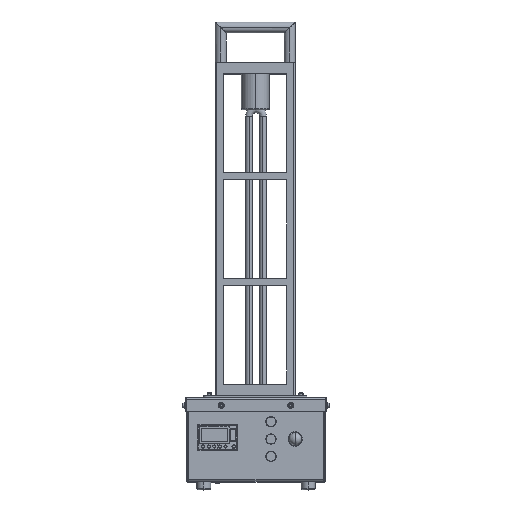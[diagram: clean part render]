
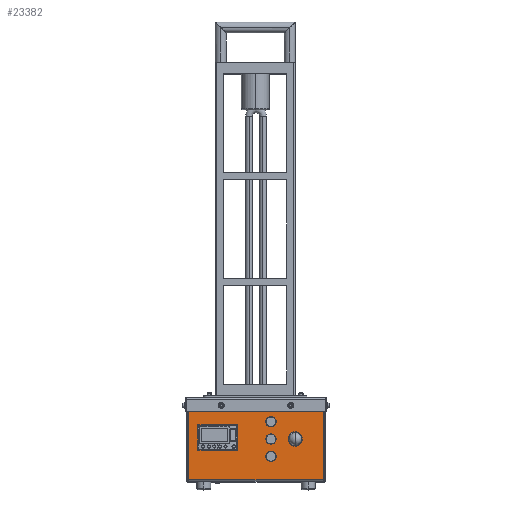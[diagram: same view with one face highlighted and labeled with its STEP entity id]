
A CAD part, top view. The second image highlights one B-rep face of the part: STEP entity #23382.
In plain terms, the highlighted planar face has unit normal (0, 0, 1) as drawn and (0, 0, -1) by its records, which use the part's own axes.
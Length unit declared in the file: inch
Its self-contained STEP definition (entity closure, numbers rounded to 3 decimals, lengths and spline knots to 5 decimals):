
#197 = CIRCLE ( 'NONE', #8352, 0.12575 ) ;
#521 = CARTESIAN_POINT ( 'NONE',  ( -3.59698, -0.41735, -0.0625 ) ) ;
#875 = FACE_BOUND ( 'NONE', #47286, .T. ) ;
#1163 = VECTOR ( 'NONE', #33926, 39.37008 ) ;
#1440 = EDGE_LOOP ( 'NONE', ( #26454, #1459 ) ) ;
#1459 = ORIENTED_EDGE ( 'NONE', *, *, #51368, .F. ) ;
#1711 = FACE_BOUND ( 'NONE', #41841, .T. ) ;
#1777 = LINE ( 'NONE', #22287, #11646 ) ;
#1897 = EDGE_CURVE ( 'NONE', #4113, #29497, #36313, .T. ) ;
#2154 = DIRECTION ( 'NONE',  ( 0., 0., -1. ) ) ;
#3862 = VERTEX_POINT ( 'NONE', #11771 ) ;
#3948 = ORIENTED_EDGE ( 'NONE', *, *, #17953, .F. ) ;
#4113 = VERTEX_POINT ( 'NONE', #14264 ) ;
#4131 = ORIENTED_EDGE ( 'NONE', *, *, #6251, .F. ) ;
#4324 = VERTEX_POINT ( 'NONE', #46667 ) ;
#4395 = LINE ( 'NONE', #4958, #23861 ) ;
#4863 = CARTESIAN_POINT ( 'NONE',  ( -1.60448, -0.41735, -0.0625 ) ) ;
#4958 = CARTESIAN_POINT ( 'NONE',  ( 3.39552, -1.20985, -0.0625 ) ) ;
#4995 = DIRECTION ( 'NONE',  ( -1., 0., 0. ) ) ;
#5364 = CARTESIAN_POINT ( 'NONE',  ( 3.39552, 0.60015, -0.0625 ) ) ;
#5531 = ORIENTED_EDGE ( 'NONE', *, *, #32664, .F. ) ;
#5584 = LINE ( 'NONE', #39734, #21926 ) ;
#5683 = PLANE ( 'NONE',  #17317 ) ;
#6045 = CARTESIAN_POINT ( 'NONE',  ( -3.27698, 2.01265, -0.0625 ) ) ;
#6251 = EDGE_CURVE ( 'NONE', #4324, #4113, #32190, .T. ) ;
#6548 = CARTESIAN_POINT ( 'NONE',  ( -3.08198, -0.41735, -0.0625 ) ) ;
#7469 = CARTESIAN_POINT ( 'NONE',  ( 1.59727, 2.01265, -0.0625 ) ) ;
#8229 = VERTEX_POINT ( 'NONE', #4863 ) ;
#8352 = AXIS2_PLACEMENT_3D ( 'NONE', #10114, #2154, #53849 ) ;
#8391 = VERTEX_POINT ( 'NONE', #50581 ) ;
#9655 = FACE_BOUND ( 'NONE', #1440, .T. ) ;
#9808 = VERTEX_POINT ( 'NONE', #23524 ) ;
#9814 = DIRECTION ( 'NONE',  ( 0., 0., -1. ) ) ;
#10114 = CARTESIAN_POINT ( 'NONE',  ( -3.27698, 2.01265, -0.0625 ) ) ;
#10545 = EDGE_LOOP ( 'NONE', ( #44524, #5531 ) ) ;
#10759 = DIRECTION ( 'NONE',  ( 0., 1., 0. ) ) ;
#11202 = VERTEX_POINT ( 'NONE', #7469 ) ;
#11646 = VECTOR ( 'NONE', #12747, 39.37008 ) ;
#11771 = CARTESIAN_POINT ( 'NONE',  ( 4.04302, 2.50015, -0.0625 ) ) ;
#11939 = DIRECTION ( 'NONE',  ( -1., 0., 0. ) ) ;
#12136 = VECTOR ( 'NONE', #10759, 39.37008 ) ;
#12235 = AXIS2_PLACEMENT_3D ( 'NONE', #50687, #41358, #16269 ) ;
#12747 = DIRECTION ( 'NONE',  ( -1., 0., 0. ) ) ;
#12787 = VERTEX_POINT ( 'NONE', #55370 ) ;
#12849 = CARTESIAN_POINT ( 'NONE',  ( 4.04302, -3.33485, -0.0625 ) ) ;
#13115 = AXIS2_PLACEMENT_3D ( 'NONE', #14057, #9814, #4995 ) ;
#13960 = EDGE_CURVE ( 'NONE', #45470, #8391, #25883, .T. ) ;
#14057 = CARTESIAN_POINT ( 'NONE',  ( -1.85448, -0.41735, -0.0625 ) ) ;
#14264 = CARTESIAN_POINT ( 'NONE',  ( 0.56552, 0.60015, -0.0625 ) ) ;
#14357 = ORIENTED_EDGE ( 'NONE', *, *, #44741, .F. ) ;
#14398 = DIRECTION ( 'NONE',  ( -1., 0., 0. ) ) ;
#15063 = EDGE_CURVE ( 'NONE', #21709, #45470, #1777, .T. ) ;
#15992 = DIRECTION ( 'NONE',  ( -1., 0., 0. ) ) ;
#16269 = DIRECTION ( 'NONE',  ( -1., 0., 0. ) ) ;
#16576 = CIRCLE ( 'NONE', #35487, 0.12575 ) ;
#16621 = DIRECTION ( 'NONE',  ( 0., 1., 0. ) ) ;
#16711 = CARTESIAN_POINT ( 'NONE',  ( 3.39552, 0.60015, -0.0625 ) ) ;
#17317 = AXIS2_PLACEMENT_3D ( 'NONE', #26834, #27412, #18122 ) ;
#17772 = DIRECTION ( 'NONE',  ( 0., 0., -1. ) ) ;
#17953 = EDGE_CURVE ( 'NONE', #8229, #12787, #19434, .T. ) ;
#18122 = DIRECTION ( 'NONE',  ( 1., 0., 0. ) ) ;
#18395 = FACE_BOUND ( 'NONE', #10545, .T. ) ;
#18587 = DIRECTION ( 'NONE',  ( -1., 0., 0. ) ) ;
#19434 = CIRCLE ( 'NONE', #13115, 0.25 ) ;
#19920 = EDGE_CURVE ( 'NONE', #3862, #8391, #44950, .T. ) ;
#20361 = VERTEX_POINT ( 'NONE', #28767 ) ;
#20944 = LINE ( 'NONE', #16711, #1163 ) ;
#21654 = AXIS2_PLACEMENT_3D ( 'NONE', #521, #17772, #14398 ) ;
#21709 = VERTEX_POINT ( 'NONE', #12849 ) ;
#21926 = VECTOR ( 'NONE', #30726, 39.37008 ) ;
#22181 = DIRECTION ( 'NONE',  ( -1., 0., 0. ) ) ;
#22287 = CARTESIAN_POINT ( 'NONE',  ( 4.05518, -3.33485, -0.0625 ) ) ;
#22687 = ORIENTED_EDGE ( 'NONE', *, *, #32463, .F. ) ;
#23382 = ADVANCED_FACE ( 'NONE', ( #18395, #1711, #875, #9655, #53686, #49420 ), #5683, .F. ) ;
#23524 = CARTESIAN_POINT ( 'NONE',  ( -3.40273, 2.01265, -0.0625 ) ) ;
#23719 = CIRCLE ( 'NONE', #48987, 0.12575 ) ;
#23767 = CARTESIAN_POINT ( 'NONE',  ( -5.69948, 2.50015, -0.0625 ) ) ;
#23861 = VECTOR ( 'NONE', #22181, 39.37008 ) ;
#24376 = DIRECTION ( 'NONE',  ( -1., 0., 0. ) ) ;
#24922 = EDGE_LOOP ( 'NONE', ( #36939, #47415, #34065, #54104 ) ) ;
#25883 = LINE ( 'NONE', #29578, #39330 ) ;
#25929 = CARTESIAN_POINT ( 'NONE',  ( 3.39552, -1.20985, -0.0625 ) ) ;
#26261 = EDGE_CURVE ( 'NONE', #47814, #4324, #4395, .T. ) ;
#26368 = ORIENTED_EDGE ( 'NONE', *, *, #26261, .F. ) ;
#26454 = ORIENTED_EDGE ( 'NONE', *, *, #27396, .F. ) ;
#26834 = CARTESIAN_POINT ( 'NONE',  ( 0., 0., -0.0625 ) ) ;
#27049 = DIRECTION ( 'NONE',  ( 0., 0., -1. ) ) ;
#27396 = EDGE_CURVE ( 'NONE', #47226, #51138, #47339, .T. ) ;
#27412 = DIRECTION ( 'NONE',  ( 0., 0., 1. ) ) ;
#28767 = CARTESIAN_POINT ( 'NONE',  ( -3.15123, 2.01265, -0.0625 ) ) ;
#29497 = VERTEX_POINT ( 'NONE', #5364 ) ;
#29578 = CARTESIAN_POINT ( 'NONE',  ( -5.59698, -3.34701, -0.0625 ) ) ;
#30726 = DIRECTION ( 'NONE',  ( 0., -1., 0. ) ) ;
#30819 = VERTEX_POINT ( 'NONE', #45990 ) ;
#32190 = LINE ( 'NONE', #49394, #12136 ) ;
#32463 = EDGE_CURVE ( 'NONE', #12787, #8229, #49587, .T. ) ;
#32664 = EDGE_CURVE ( 'NONE', #20361, #9808, #41485, .T. ) ;
#33926 = DIRECTION ( 'NONE',  ( 0., -1., 0. ) ) ;
#34065 = ORIENTED_EDGE ( 'NONE', *, *, #19920, .F. ) ;
#35487 = AXIS2_PLACEMENT_3D ( 'NONE', #53604, #27049, #18587 ) ;
#35744 = CARTESIAN_POINT ( 'NONE',  ( 3.39552, 0.60015, -0.0625 ) ) ;
#36313 = LINE ( 'NONE', #35744, #43161 ) ;
#36939 = ORIENTED_EDGE ( 'NONE', *, *, #15063, .T. ) ;
#37088 = DIRECTION ( 'NONE',  ( 0., 0., -1. ) ) ;
#37596 = CARTESIAN_POINT ( 'NONE',  ( 1.72302, 2.01265, -0.0625 ) ) ;
#37964 = CARTESIAN_POINT ( 'NONE',  ( -4.11198, -0.41735, -0.0625 ) ) ;
#38823 = VECTOR ( 'NONE', #49753, 39.37008 ) ;
#39043 = CARTESIAN_POINT ( 'NONE',  ( -5.59698, -3.33485, -0.0625 ) ) ;
#39330 = VECTOR ( 'NONE', #16621, 39.37008 ) ;
#39667 = AXIS2_PLACEMENT_3D ( 'NONE', #6045, #37088, #24376 ) ;
#39734 = CARTESIAN_POINT ( 'NONE',  ( 4.04302, 2.50015, -0.0625 ) ) ;
#40602 = AXIS2_PLACEMENT_3D ( 'NONE', #54659, #41094, #15992 ) ;
#41094 = DIRECTION ( 'NONE',  ( 0., 0., -1. ) ) ;
#41358 = DIRECTION ( 'NONE',  ( 0., 0., -1. ) ) ;
#41485 = CIRCLE ( 'NONE', #39667, 0.12575 ) ;
#41841 = EDGE_LOOP ( 'NONE', ( #52535, #43976 ) ) ;
#43161 = VECTOR ( 'NONE', #53544, 39.37008 ) ;
#43779 = EDGE_CURVE ( 'NONE', #9808, #20361, #197, .T. ) ;
#43976 = ORIENTED_EDGE ( 'NONE', *, *, #54141, .F. ) ;
#44524 = ORIENTED_EDGE ( 'NONE', *, *, #43779, .F. ) ;
#44734 = EDGE_CURVE ( 'NONE', #3862, #21709, #5584, .T. ) ;
#44741 = EDGE_CURVE ( 'NONE', #29497, #47814, #20944, .T. ) ;
#44950 = LINE ( 'NONE', #23767, #38823 ) ;
#45470 = VERTEX_POINT ( 'NONE', #39043 ) ;
#45990 = CARTESIAN_POINT ( 'NONE',  ( 1.84877, 2.01265, -0.0625 ) ) ;
#46667 = CARTESIAN_POINT ( 'NONE',  ( 0.56552, -1.20985, -0.0625 ) ) ;
#47226 = VERTEX_POINT ( 'NONE', #37964 ) ;
#47286 = EDGE_LOOP ( 'NONE', ( #55621, #4131, #26368, #14357 ) ) ;
#47339 = CIRCLE ( 'NONE', #12235, 0.515 ) ;
#47415 = ORIENTED_EDGE ( 'NONE', *, *, #13960, .T. ) ;
#47814 = VERTEX_POINT ( 'NONE', #25929 ) ;
#48987 = AXIS2_PLACEMENT_3D ( 'NONE', #37596, #50605, #11939 ) ;
#49259 = EDGE_LOOP ( 'NONE', ( #22687, #3948 ) ) ;
#49394 = CARTESIAN_POINT ( 'NONE',  ( 0.56552, 0.60015, -0.0625 ) ) ;
#49420 = FACE_OUTER_BOUND ( 'NONE', #24922, .T. ) ;
#49587 = CIRCLE ( 'NONE', #40602, 0.25 ) ;
#49753 = DIRECTION ( 'NONE',  ( -1., 0., 0. ) ) ;
#50581 = CARTESIAN_POINT ( 'NONE',  ( -5.59698, 2.50015, -0.0625 ) ) ;
#50605 = DIRECTION ( 'NONE',  ( 0., 0., -1. ) ) ;
#50687 = CARTESIAN_POINT ( 'NONE',  ( -3.59698, -0.41735, -0.0625 ) ) ;
#51138 = VERTEX_POINT ( 'NONE', #6548 ) ;
#51368 = EDGE_CURVE ( 'NONE', #51138, #47226, #52312, .T. ) ;
#52312 = CIRCLE ( 'NONE', #21654, 0.515 ) ;
#52535 = ORIENTED_EDGE ( 'NONE', *, *, #54642, .F. ) ;
#53544 = DIRECTION ( 'NONE',  ( 1., 0., 0. ) ) ;
#53604 = CARTESIAN_POINT ( 'NONE',  ( 1.72302, 2.01265, -0.0625 ) ) ;
#53686 = FACE_BOUND ( 'NONE', #49259, .T. ) ;
#53849 = DIRECTION ( 'NONE',  ( -1., 0., 0. ) ) ;
#54104 = ORIENTED_EDGE ( 'NONE', *, *, #44734, .T. ) ;
#54141 = EDGE_CURVE ( 'NONE', #30819, #11202, #23719, .T. ) ;
#54642 = EDGE_CURVE ( 'NONE', #11202, #30819, #16576, .T. ) ;
#54659 = CARTESIAN_POINT ( 'NONE',  ( -1.85448, -0.41735, -0.0625 ) ) ;
#55370 = CARTESIAN_POINT ( 'NONE',  ( -2.10448, -0.41735, -0.0625 ) ) ;
#55621 = ORIENTED_EDGE ( 'NONE', *, *, #1897, .F. ) ;
